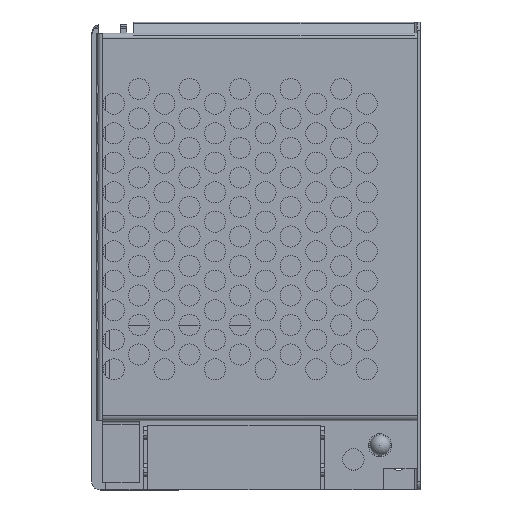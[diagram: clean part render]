
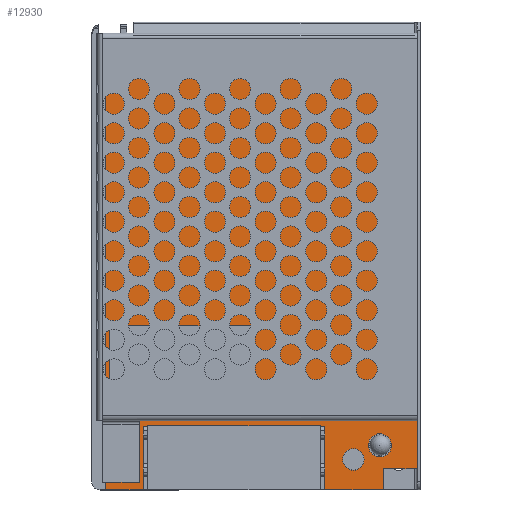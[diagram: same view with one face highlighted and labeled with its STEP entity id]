
A CAD part, top view. The second image highlights one B-rep face of the part: STEP entity #12930.
In plain terms, the highlighted planar face has unit normal (0, 0, 1).
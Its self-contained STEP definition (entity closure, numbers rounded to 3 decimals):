
#6 = CARTESIAN_POINT ( 'NONE',  ( -112.64, -35.429, 102.306 ) ) ;
#71 = VERTEX_POINT ( 'NONE', #18687 ) ;
#711 = CIRCLE ( 'NONE', #11324, 2.551 ) ;
#959 = VERTEX_POINT ( 'NONE', #23165 ) ;
#1562 = VERTEX_POINT ( 'NONE', #2102 ) ;
#1849 = DIRECTION ( 'NONE',  ( 0., -1., 0. ) ) ;
#2064 = LINE ( 'NONE', #11418, #16352 ) ;
#2102 = CARTESIAN_POINT ( 'NONE',  ( -53.788, -25.642, 102.306 ) ) ;
#2405 = ORIENTED_EDGE ( 'NONE', *, *, #9259, .F. ) ;
#3178 = EDGE_CURVE ( 'NONE', #23563, #13692, #6283, .T. ) ;
#3711 = CARTESIAN_POINT ( 'NONE',  ( -60.64, -35.429, 102.306 ) ) ;
#3955 = AXIS2_PLACEMENT_3D ( 'NONE', #9531, #13357, #13472 ) ;
#4093 = DIRECTION ( 'NONE',  ( 0., 0., 1. ) ) ;
#4410 = VERTEX_POINT ( 'NONE', #5993 ) ;
#4418 = DIRECTION ( 'NONE',  ( 1., 0., 0. ) ) ;
#4727 = CIRCLE ( 'NONE', #3955, 2.551 ) ;
#4765 = ORIENTED_EDGE ( 'NONE', *, *, #17305, .F. ) ;
#4906 = CARTESIAN_POINT ( 'NONE',  ( -38.64, -30.429, 102.306 ) ) ;
#5304 = VERTEX_POINT ( 'NONE', #12760 ) ;
#5305 = LINE ( 'NONE', #3711, #10662 ) ;
#5412 = DIRECTION ( 'NONE',  ( 1., 0., 0. ) ) ;
#5610 = ORIENTED_EDGE ( 'NONE', *, *, #23731, .F. ) ;
#5674 = VECTOR ( 'NONE', #6152, 1000. ) ;
#5993 = CARTESIAN_POINT ( 'NONE',  ( -53.788, -30.744, 102.306 ) ) ;
#6066 = DIRECTION ( 'NONE',  ( 0., -1., 0. ) ) ;
#6152 = DIRECTION ( 'NONE',  ( 0., -1., 0. ) ) ;
#6283 = LINE ( 'NONE', #13785, #18674 ) ;
#6485 = CARTESIAN_POINT ( 'NONE',  ( -112.64, 64.571, 102.306 ) ) ;
#6537 = EDGE_LOOP ( 'NONE', ( #7432, #16828, #15785, #7549, #23146, #9306, #10765, #23209, #12610, #4765 ) ) ;
#6651 = DIRECTION ( 'NONE',  ( 0., 1., 0. ) ) ;
#7432 = ORIENTED_EDGE ( 'NONE', *, *, #14654, .T. ) ;
#7549 = ORIENTED_EDGE ( 'NONE', *, *, #19183, .T. ) ;
#8587 = DIRECTION ( 'NONE',  ( 0., -1., 0. ) ) ;
#8620 = EDGE_CURVE ( 'NONE', #959, #18870, #14600, .T. ) ;
#9235 = VERTEX_POINT ( 'NONE', #6 ) ;
#9259 = EDGE_CURVE ( 'NONE', #4410, #1562, #711, .T. ) ;
#9306 = ORIENTED_EDGE ( 'NONE', *, *, #13251, .T. ) ;
#9531 = CARTESIAN_POINT ( 'NONE',  ( -53.788, -28.193, 102.306 ) ) ;
#10066 = CARTESIAN_POINT ( 'NONE',  ( -112.64, -35.429, 102.306 ) ) ;
#10080 = LINE ( 'NONE', #11909, #16329 ) ;
#10340 = CARTESIAN_POINT ( 'NONE',  ( -60.64, -20.429, 102.306 ) ) ;
#10662 = VECTOR ( 'NONE', #1849, 1000. ) ;
#10765 = ORIENTED_EDGE ( 'NONE', *, *, #8620, .T. ) ;
#11200 = FACE_BOUND ( 'NONE', #17864, .T. ) ;
#11324 = AXIS2_PLACEMENT_3D ( 'NONE', #15531, #4093, #6066 ) ;
#11418 = CARTESIAN_POINT ( 'NONE',  ( -38.64, -20.429, 102.306 ) ) ;
#11812 = VERTEX_POINT ( 'NONE', #15909 ) ;
#11889 = EDGE_CURVE ( 'NONE', #19645, #23563, #5305, .T. ) ;
#11909 = CARTESIAN_POINT ( 'NONE',  ( -46.64, -35.429, 102.306 ) ) ;
#12254 = CARTESIAN_POINT ( 'NONE',  ( -46.64, -35.429, 102.306 ) ) ;
#12551 = VECTOR ( 'NONE', #6651, 1000. ) ;
#12610 = ORIENTED_EDGE ( 'NONE', *, *, #18496, .T. ) ;
#12760 = CARTESIAN_POINT ( 'NONE',  ( -46.64, -30.429, 102.306 ) ) ;
#12930 = ADVANCED_FACE ( 'NONE', ( #11200, #16889 ), #20605, .T. ) ;
#13053 = DIRECTION ( 'NONE',  ( 0., -1., 0. ) ) ;
#13251 = EDGE_CURVE ( 'NONE', #71, #959, #19606, .T. ) ;
#13357 = DIRECTION ( 'NONE',  ( 0., 0., 1. ) ) ;
#13472 = DIRECTION ( 'NONE',  ( 0., -1., 0. ) ) ;
#13597 = VERTEX_POINT ( 'NONE', #16967 ) ;
#13692 = VERTEX_POINT ( 'NONE', #12254 ) ;
#13785 = CARTESIAN_POINT ( 'NONE',  ( -46.64, -35.429, 102.306 ) ) ;
#13965 = LINE ( 'NONE', #19653, #20702 ) ;
#14552 = EDGE_CURVE ( 'NONE', #5304, #71, #18842, .T. ) ;
#14600 = LINE ( 'NONE', #15085, #15584 ) ;
#14639 = CARTESIAN_POINT ( 'NONE',  ( -38.64, -30.429, 102.306 ) ) ;
#14654 = EDGE_CURVE ( 'NONE', #13597, #19645, #2064, .T. ) ;
#15085 = CARTESIAN_POINT ( 'NONE',  ( -38.64, 64.571, 102.306 ) ) ;
#15531 = CARTESIAN_POINT ( 'NONE',  ( -53.788, -28.193, 102.306 ) ) ;
#15584 = VECTOR ( 'NONE', #22131, 1000. ) ;
#15785 = ORIENTED_EDGE ( 'NONE', *, *, #3178, .T. ) ;
#15909 = CARTESIAN_POINT ( 'NONE',  ( -103.64, -35.429, 102.306 ) ) ;
#16273 = AXIS2_PLACEMENT_3D ( 'NONE', #23929, #22332, #13053 ) ;
#16296 = EDGE_CURVE ( 'NONE', #18870, #9235, #17942, .T. ) ;
#16329 = VECTOR ( 'NONE', #19095, 1000. ) ;
#16352 = VECTOR ( 'NONE', #4418, 1000. ) ;
#16828 = ORIENTED_EDGE ( 'NONE', *, *, #11889, .T. ) ;
#16889 = FACE_OUTER_BOUND ( 'NONE', #6537, .T. ) ;
#16927 = CARTESIAN_POINT ( 'NONE',  ( -60.64, -35.429, 102.306 ) ) ;
#16967 = CARTESIAN_POINT ( 'NONE',  ( -103.64, -20.429, 102.306 ) ) ;
#17305 = EDGE_CURVE ( 'NONE', #13597, #11812, #19449, .T. ) ;
#17544 = DIRECTION ( 'NONE',  ( 0., 1., 0. ) ) ;
#17552 = VECTOR ( 'NONE', #5412, 1000. ) ;
#17864 = EDGE_LOOP ( 'NONE', ( #5610, #2405 ) ) ;
#17942 = LINE ( 'NONE', #10066, #21750 ) ;
#18496 = EDGE_CURVE ( 'NONE', #9235, #11812, #10080, .T. ) ;
#18674 = VECTOR ( 'NONE', #21077, 1000. ) ;
#18687 = CARTESIAN_POINT ( 'NONE',  ( -38.64, -30.429, 102.306 ) ) ;
#18842 = LINE ( 'NONE', #14639, #17552 ) ;
#18870 = VERTEX_POINT ( 'NONE', #6485 ) ;
#19095 = DIRECTION ( 'NONE',  ( 1., 0., 0. ) ) ;
#19183 = EDGE_CURVE ( 'NONE', #13692, #5304, #13965, .T. ) ;
#19449 = LINE ( 'NONE', #23036, #5674 ) ;
#19606 = LINE ( 'NONE', #4906, #12551 ) ;
#19645 = VERTEX_POINT ( 'NONE', #10340 ) ;
#19653 = CARTESIAN_POINT ( 'NONE',  ( -46.64, -30.429, 102.306 ) ) ;
#20605 = PLANE ( 'NONE',  #16273 ) ;
#20702 = VECTOR ( 'NONE', #17544, 1000. ) ;
#21077 = DIRECTION ( 'NONE',  ( 1., 0., 0. ) ) ;
#21750 = VECTOR ( 'NONE', #8587, 1000. ) ;
#22131 = DIRECTION ( 'NONE',  ( -1., 0., 0. ) ) ;
#22332 = DIRECTION ( 'NONE',  ( 0., 0., 1. ) ) ;
#23036 = CARTESIAN_POINT ( 'NONE',  ( -103.64, -35.429, 102.306 ) ) ;
#23146 = ORIENTED_EDGE ( 'NONE', *, *, #14552, .T. ) ;
#23165 = CARTESIAN_POINT ( 'NONE',  ( -38.64, 64.571, 102.306 ) ) ;
#23209 = ORIENTED_EDGE ( 'NONE', *, *, #16296, .T. ) ;
#23563 = VERTEX_POINT ( 'NONE', #16927 ) ;
#23731 = EDGE_CURVE ( 'NONE', #1562, #4410, #4727, .T. ) ;
#23929 = CARTESIAN_POINT ( 'NONE',  ( -38.64, -35.429, 102.306 ) ) ;
